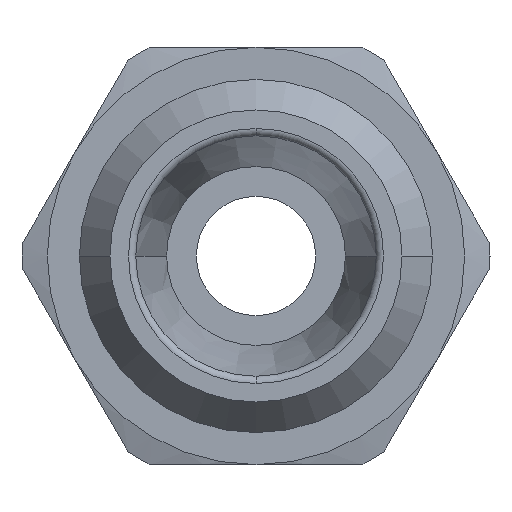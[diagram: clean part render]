
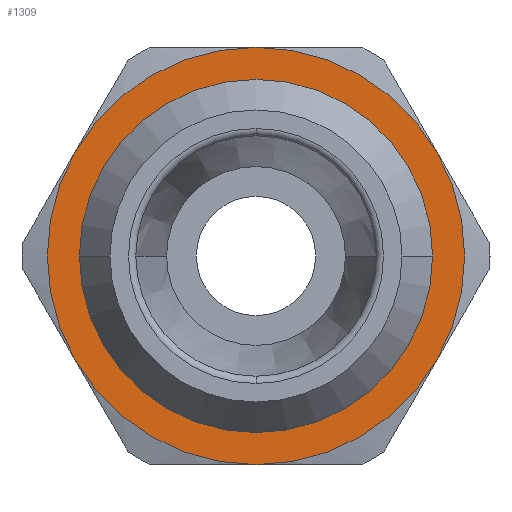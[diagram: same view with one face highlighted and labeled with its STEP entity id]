
A CAD part, left-side view. The second image highlights one B-rep face of the part: STEP entity #1309.
In plain terms, the highlighted planar face has unit normal (-1, 0, 0) as drawn and (0, 0, 1) by its records, which use the part's own axes.
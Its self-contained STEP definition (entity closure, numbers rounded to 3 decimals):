
#317=CARTESIAN_POINT('',(-5.8,0.,8.0));
#318=VERTEX_POINT('',#317);
#344=CARTESIAN_POINT('',(5.8,0.,8.0));
#345=VERTEX_POINT('',#344);
#353=CARTESIAN_POINT('',(0.,0.,8.0));
#354=DIRECTION('',(0.0,0.0,1.0));
#355=DIRECTION('',(-1.0,0.0,0.0));
#356=AXIS2_PLACEMENT_3D('',#353,#354,#355);
#357=CIRCLE('',#356,5.8);
#358=EDGE_CURVE('',#345,#318,#357,.T.);
#1189=CARTESIAN_POINT('',(0.,-5.8,8.0));
#1190=VERTEX_POINT('',#1189);
#1191=CARTESIAN_POINT('',(0.,0.,8.0));
#1192=DIRECTION('',(0.0,0.0,1.0));
#1193=DIRECTION('',(-1.0,0.0,0.0));
#1194=AXIS2_PLACEMENT_3D('',#1191,#1192,#1193);
#1195=CIRCLE('',#1194,5.8);
#1196=EDGE_CURVE('',#318,#1190,#1195,.T.);
#1198=CARTESIAN_POINT('',(0.,0.,8.0));
#1199=DIRECTION('',(0.0,0.0,1.0));
#1200=DIRECTION('',(-1.0,0.0,0.0));
#1201=AXIS2_PLACEMENT_3D('',#1198,#1199,#1200);
#1202=CIRCLE('',#1201,5.8);
#1203=EDGE_CURVE('',#1190,#345,#1202,.T.);
#1243=CARTESIAN_POINT('',(0.0,0.,8.0));
#1244=DIRECTION('',(0.0,0.0,1.0));
#1245=DIRECTION('',(1.0,0.0,0.0));
#1246=AXIS2_PLACEMENT_3D('',#1243,#1244,#1245);
#1247=PLANE('',#1246);
#1248=CARTESIAN_POINT('',(3.5,-6.062,8.));
#1249=VERTEX_POINT('',#1248);
#1250=CARTESIAN_POINT('',(7.,0.0,8.));
#1251=VERTEX_POINT('',#1250);
#1252=CARTESIAN_POINT('',(0.,0.0,8.0));
#1253=DIRECTION('',(0.0,0.0,1.0));
#1254=DIRECTION('',(1.0,0.0,0.0));
#1255=AXIS2_PLACEMENT_3D('',#1252,#1253,#1254);
#1256=CIRCLE('',#1255,7.0);
#1257=EDGE_CURVE('',#1249,#1251,#1256,.T.);
#1258=ORIENTED_EDGE('',*,*,#1257,.T.);
#1259=CARTESIAN_POINT('',(3.5,6.062,8.));
#1260=VERTEX_POINT('',#1259);
#1261=CARTESIAN_POINT('',(0.,0.0,8.0));
#1262=DIRECTION('',(0.0,0.0,1.0));
#1263=DIRECTION('',(1.0,0.0,0.0));
#1264=AXIS2_PLACEMENT_3D('',#1261,#1262,#1263);
#1265=CIRCLE('',#1264,7.0);
#1266=EDGE_CURVE('',#1251,#1260,#1265,.T.);
#1267=ORIENTED_EDGE('',*,*,#1266,.T.);
#1268=CARTESIAN_POINT('',(-3.5,6.062,8.));
#1269=VERTEX_POINT('',#1268);
#1270=CARTESIAN_POINT('',(0.,0.0,8.0));
#1271=DIRECTION('',(0.0,0.0,1.0));
#1272=DIRECTION('',(1.0,0.0,0.0));
#1273=AXIS2_PLACEMENT_3D('',#1270,#1271,#1272);
#1274=CIRCLE('',#1273,7.0);
#1275=EDGE_CURVE('',#1260,#1269,#1274,.T.);
#1276=ORIENTED_EDGE('',*,*,#1275,.T.);
#1277=CARTESIAN_POINT('',(-7.,0.,8.));
#1278=VERTEX_POINT('',#1277);
#1279=CARTESIAN_POINT('',(0.,0.0,8.0));
#1280=DIRECTION('',(0.0,0.0,1.0));
#1281=DIRECTION('',(1.0,0.0,0.0));
#1282=AXIS2_PLACEMENT_3D('',#1279,#1280,#1281);
#1283=CIRCLE('',#1282,7.0);
#1284=EDGE_CURVE('',#1269,#1278,#1283,.T.);
#1285=ORIENTED_EDGE('',*,*,#1284,.T.);
#1286=CARTESIAN_POINT('',(-3.5,-6.062,8.));
#1287=VERTEX_POINT('',#1286);
#1288=CARTESIAN_POINT('',(0.,0.0,8.0));
#1289=DIRECTION('',(0.0,0.0,1.0));
#1290=DIRECTION('',(1.0,0.0,0.0));
#1291=AXIS2_PLACEMENT_3D('',#1288,#1289,#1290);
#1292=CIRCLE('',#1291,7.0);
#1293=EDGE_CURVE('',#1278,#1287,#1292,.T.);
#1294=ORIENTED_EDGE('',*,*,#1293,.T.);
#1295=CARTESIAN_POINT('',(0.,0.0,8.0));
#1296=DIRECTION('',(0.0,0.0,1.0));
#1297=DIRECTION('',(1.0,0.0,0.0));
#1298=AXIS2_PLACEMENT_3D('',#1295,#1296,#1297);
#1299=CIRCLE('',#1298,7.0);
#1300=EDGE_CURVE('',#1287,#1249,#1299,.T.);
#1301=ORIENTED_EDGE('',*,*,#1300,.T.);
#1302=EDGE_LOOP('',(#1258,#1267,#1276,#1285,#1294,#1301));
#1303=FACE_OUTER_BOUND('',#1302,.T.);
#1304=ORIENTED_EDGE('',*,*,#1203,.F.);
#1305=ORIENTED_EDGE('',*,*,#1196,.F.);
#1306=ORIENTED_EDGE('',*,*,#358,.F.);
#1307=EDGE_LOOP('',(#1304,#1305,#1306));
#1308=FACE_BOUND('',#1307,.T.);
#1309=ADVANCED_FACE('',(#1303,#1308),#1247,.T.);
